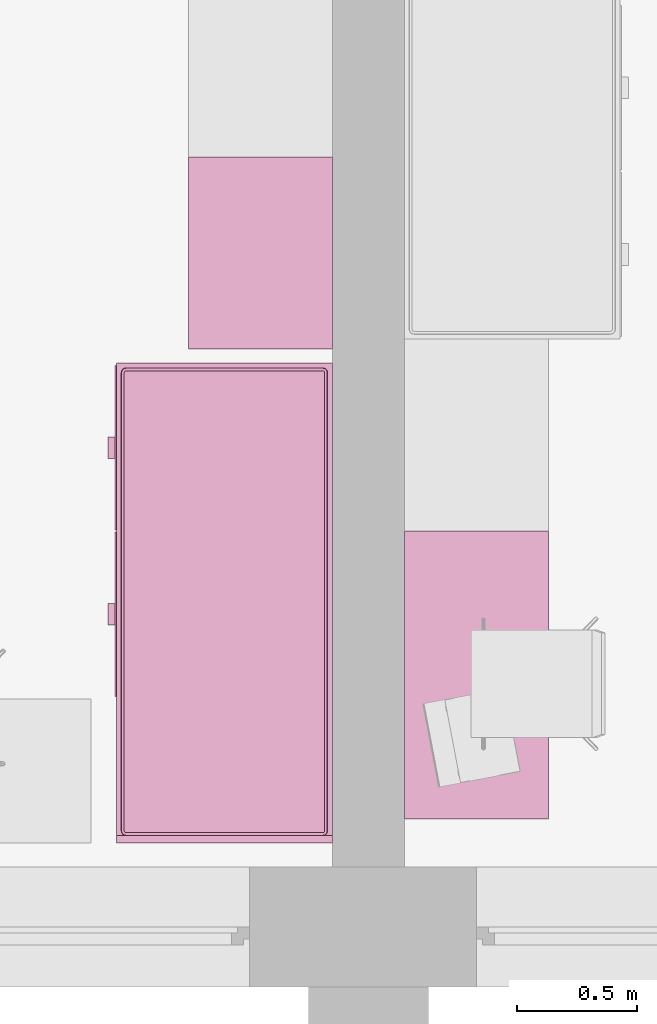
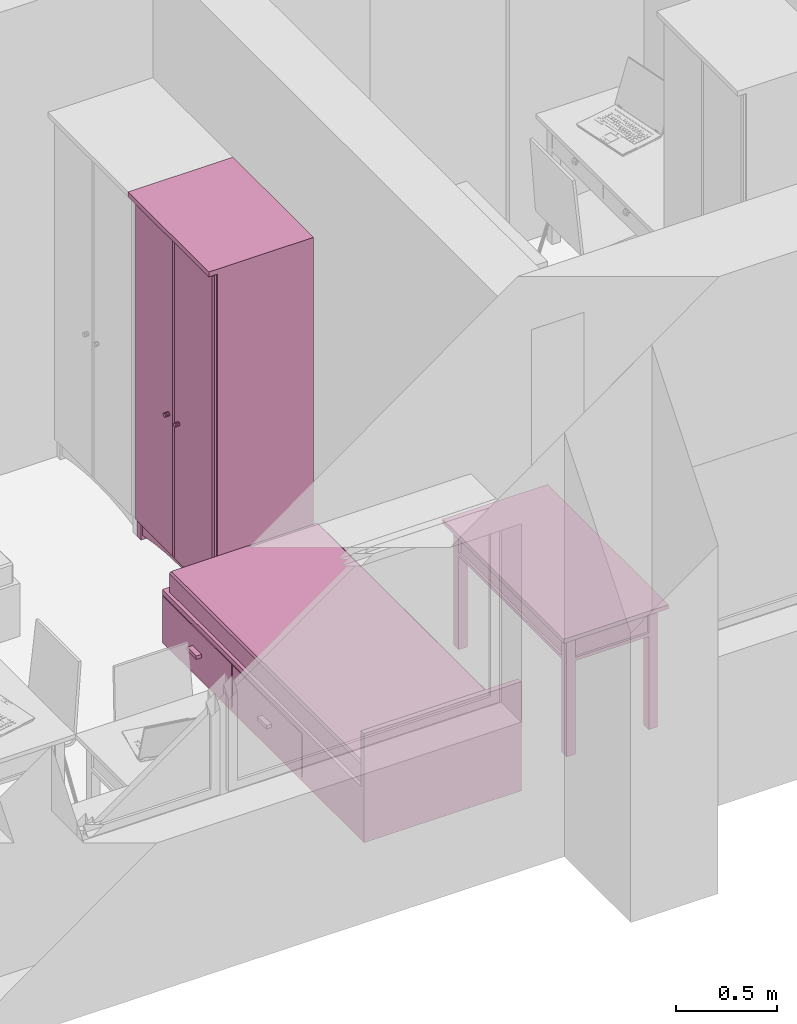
# One storey, part 56 of 165: 3 furnishings.
"""IFC2X3 building model written with IfcOpenShell, lengths in millimetres."""

from ifc_helpers import new_model, entity, si_unit, converted_unit, money_unit, direction, frame, origin_with_axes, place, context, subcontext, project, spatial, faceted_brep, source, transform, mapped, material, material_list, type_object, element, save


model = new_model("IFC2X3")

# Units and contexts
model_context = context("Model", 3, precision=1e-05, world=origin_with_axes(), true_north=direction((0.0, 1.0)))
body_context = subcontext(model_context, "Body", "Model", "MODEL_VIEW")
ifc_project = project(units=[si_unit("LENGTHUNIT", "METRE", prefix="MILLI"), si_unit("AREAUNIT", "SQUARE_METRE"), si_unit("VOLUMEUNIT", "CUBIC_METRE"), converted_unit("PLANEANGLEUNIT", "DEGREE", entity("IfcPlaneAngleMeasure", 0.0174532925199), si_unit("PLANEANGLEUNIT", "RADIAN"), dimensions=[0, 0, 0, 0, 0, 0, 0]), si_unit("SOLIDANGLEUNIT", "STERADIAN"), money_unit("USD"), converted_unit("TIMEUNIT", "Year", entity("IfcTimeMeasure", 31556926.0), si_unit("TIMEUNIT", "SECOND"), dimensions=[0, 0, 0, 0, 0, 0, 0]), si_unit("MASSUNIT", "GRAM"), si_unit("THERMODYNAMICTEMPERATUREUNIT", "DEGREE_CELSIUS"), si_unit("LUMINOUSINTENSITYUNIT", "LUMEN")], contexts=[model_context])

# Site, building, storey
site_placement = place(None, origin_with_axes())
site = spatial("IfcSite", under=ifc_project, at=site_placement, Name="Site", CompositionType="ELEMENT")
building_placement = place(site_placement, origin_with_axes())
building = spatial("IfcBuilding", under=site, at=building_placement, Name="Building", CompositionType="ELEMENT")
storey_placement = place(building_placement, frame((0.0, 0.0, 6300.0), z_axis=(0.0, 0.0, 1.0), x_axis=(1.0, 0.0, 0.0)))
storey = spatial("IfcBuildingStorey", under=building, at=storey_placement, Name="4KORRUS", CompositionType="ELEMENT", Elevation=6300.0)

# Furnishings
ifc_material = material(Name="Background")
ifc_material_list = material_list([ifc_material])
furnishing_element_type_1 = type_object("IfcFurnishingElementType", Name="Bed 19")
shared_shape_1 = source(origin_with_axes(), body_context, "Body", "Brep", [
    faceted_brep([(900.0, 1970.0, 0.0), (0.0, 1970.0, 0.0), (0.0, 2000.0, 0.0), (900.0, 2000.0, 0.0), (900.0, 1970.0, 660.0), (0.0, 1970.0, 660.0), (0.0, 2000.0, 660.0), (900.0, 2000.0, 660.0)], [[[0, 1, 2, 3]], [[1, 0, 4, 5]], [[2, 1, 5, 6]], [[3, 2, 6, 7]], [[0, 3, 7, 4]], [[5, 4, 7, 6]]]),
    faceted_brep([(900.0, 0.0, 0.0), (0.0, 0.0, 0.0), (0.0, 1970.0, 0.0), (900.0, 1970.0, 0.0), (900.0, 0.0, 320.0), (0.0, 0.0, 320.0), (0.0, 1970.0, 320.0), (900.0, 1970.0, 320.0)], [[[0, 1, 2, 3]], [[1, 0, 4, 5]], [[2, 1, 5, 6]], [[3, 2, 6, 7]], [[0, 3, 7, 4]], [[5, 4, 7, 6]]]),
    faceted_brep([(905.0, 10.0, 30.0), (900.0, 10.0, 30.0), (900.0, 695.0, 30.0), (905.0, 695.0, 30.0), (905.0, 10.0, 290.0), (900.0, 10.0, 290.0), (900.0, 695.0, 290.0), (905.0, 695.0, 290.0)], [[[0, 1, 2, 3]], [[1, 0, 4, 5]], [[2, 1, 5, 6]], [[3, 2, 6, 7]], [[0, 3, 7, 4]], [[5, 4, 7, 6]]]),
    faceted_brep([(935.0, 307.5, 150.0), (905.0, 307.5, 150.0), (905.0, 397.5, 150.0), (935.0, 397.5, 150.0), (935.0, 307.5, 170.0), (905.0, 307.5, 170.0), (905.0, 397.5, 170.0), (935.0, 397.5, 170.0)], [[[0, 1, 2, 3]], [[1, 0, 4, 5]], [[2, 1, 5, 6]], [[3, 2, 6, 7]], [[0, 3, 7, 4]], [[5, 4, 7, 6]]]),
    faceted_brep([(905.0, 705.0, 30.0), (900.0, 705.0, 30.0), (900.0, 1390.0, 30.0), (905.0, 1390.0, 30.0), (905.0, 705.0, 290.0), (900.0, 705.0, 290.0), (900.0, 1390.0, 290.0), (905.0, 1390.0, 290.0)], [[[0, 1, 2, 3]], [[1, 0, 4, 5]], [[2, 1, 5, 6]], [[3, 2, 6, 7]], [[0, 3, 7, 4]], [[5, 4, 7, 6]]]),
    faceted_brep([(935.0, 1002.5, 150.0), (905.0, 1002.5, 150.0), (905.0, 1092.5, 150.0), (935.0, 1092.5, 150.0), (935.0, 1002.5, 170.0), (905.0, 1002.5, 170.0), (905.0, 1092.5, 170.0), (935.0, 1092.5, 170.0)], [[[0, 1, 2, 3]], [[1, 0, 4, 5]], [[2, 1, 5, 6]], [[3, 2, 6, 7]], [[0, 3, 7, 4]], [[5, 4, 7, 6]]]),
    faceted_brep([(20.0, 40.0, 350.0), (20.0, 1950.0, 350.0), (21.522, 1957.654, 350.0), (25.858, 1964.142, 350.0), (32.346, 1968.478, 350.0), (40.0, 1970.0, 350.0), (860.0, 1970.0, 350.0), (867.654, 1968.478, 350.0), (874.142, 1964.142, 350.0), (878.478, 1957.654, 350.0), (880.0, 1950.0, 350.0), (880.0, 40.0, 350.0), (878.478, 32.346, 350.0), (874.142, 25.858, 350.0), (867.654, 21.522, 350.0), (860.0, 20.0, 350.0), (40.0, 20.0, 350.0), (32.346, 21.522, 350.0), (25.858, 25.858, 350.0), (21.522, 32.346, 350.0), (20.0, 40.0, 420.0), (20.0, 1950.0, 420.0), (21.522, 1957.654, 420.0), (25.858, 1964.142, 420.0), (32.346, 1968.478, 420.0), (40.0, 1970.0, 420.0), (860.0, 1970.0, 420.0), (867.654, 1968.478, 420.0), (874.142, 1964.142, 420.0), (878.478, 1957.654, 420.0), (880.0, 1950.0, 420.0), (880.0, 40.0, 420.0), (878.478, 32.346, 420.0), (874.142, 25.858, 420.0), (867.654, 21.522, 420.0), (860.0, 20.0, 420.0), (40.0, 20.0, 420.0), (32.346, 21.522, 420.0), (25.858, 25.858, 420.0), (21.522, 32.346, 420.0), (21.522, 40.15, 427.654), (21.522, 1949.85, 427.654), (22.956, 1957.06, 427.654), (26.955, 1963.045, 427.654), (32.94, 1967.044, 427.654), (40.15, 1968.478, 427.654), (859.85, 1968.478, 427.654), (867.06, 1967.044, 427.654), (873.045, 1963.045, 427.654), (877.044, 1957.06, 427.654), (878.478, 1949.85, 427.654), (878.478, 40.15, 427.654), (877.044, 32.94, 427.654), (873.045, 26.955, 427.654), (867.06, 22.956, 427.654), (859.85, 21.522, 427.654), (40.15, 21.522, 427.654), (32.94, 22.956, 427.654), (26.955, 26.955, 427.654), (22.956, 32.94, 427.654), (32.346, 41.216, 438.478), (32.346, 1948.784, 438.478), (33.152, 1952.836, 438.478), (34.759, 1955.241, 438.478), (37.164, 1956.848, 438.478), (41.216, 1957.654, 438.478), (858.784, 1957.654, 438.478), (862.836, 1956.848, 438.478), (865.241, 1955.241, 438.478), (866.848, 1952.836, 438.478), (867.654, 1948.784, 438.478), (867.654, 41.216, 438.478), (866.848, 37.164, 438.478), (865.241, 34.759, 438.478), (862.836, 33.152, 438.478), (858.784, 32.346, 438.478), (41.216, 32.346, 438.478), (37.164, 33.152, 438.478), (34.759, 34.759, 438.478), (33.152, 37.164, 438.478), (40.0, 41.97, 440.0), (40.0, 1948.03, 440.0), (40.327, 1949.673, 440.0), (40.0, 1950.0, 439.924), (41.97, 1950.0, 440.0), (858.03, 1950.0, 440.0), (859.673, 1949.673, 440.0), (860.0, 1950.0, 439.924), (860.0, 1948.03, 440.0), (860.0, 41.97, 440.0), (859.673, 40.327, 440.0), (860.0, 40.0, 439.924), (858.03, 40.0, 440.0), (41.97, 40.0, 440.0), (40.327, 40.327, 440.0), (40.0, 40.0, 439.924)], [[[0, 1, 2, 3, 4, 5, 6, 7, 8, 9, 10, 11, 12, 13, 14, 15, 16, 17, 18, 19]], [[1, 0, 20, 21]], [[2, 1, 21, 22]], [[3, 2, 22, 23]], [[4, 3, 23, 24]], [[5, 4, 24, 25]], [[6, 5, 25, 26]], [[7, 6, 26, 27]], [[8, 7, 27, 28]], [[9, 8, 28, 29]], [[10, 9, 29, 30]], [[11, 10, 30, 31]], [[12, 11, 31, 32]], [[13, 12, 32, 33]], [[14, 13, 33, 34]], [[15, 14, 34, 35]], [[16, 15, 35, 36]], [[17, 16, 36, 37]], [[18, 17, 37, 38]], [[19, 18, 38, 39]], [[0, 19, 39, 20]], [[21, 20, 40, 41]], [[22, 21, 41, 42]], [[23, 22, 42, 43]], [[24, 23, 43, 44]], [[25, 24, 44, 45]], [[26, 25, 45, 46]], [[27, 26, 46, 47]], [[28, 27, 47, 48]], [[29, 28, 48, 49]], [[30, 29, 49, 50]], [[31, 30, 50, 51]], [[32, 31, 51, 52]], [[33, 32, 52, 53]], [[34, 33, 53, 54]], [[35, 34, 54, 55]], [[36, 35, 55, 56]], [[37, 36, 56, 57]], [[38, 37, 57, 58]], [[39, 38, 58, 59]], [[20, 39, 59, 40]], [[41, 40, 60, 61]], [[42, 41, 61, 62]], [[43, 42, 62, 63]], [[44, 43, 63, 64]], [[45, 44, 64, 65]], [[46, 45, 65, 66]], [[47, 46, 66, 67]], [[48, 47, 67, 68]], [[49, 48, 68, 69]], [[50, 49, 69, 70]], [[51, 50, 70, 71]], [[52, 51, 71, 72]], [[53, 52, 72, 73]], [[54, 53, 73, 74]], [[55, 54, 74, 75]], [[56, 55, 75, 76]], [[57, 56, 76, 77]], [[58, 57, 77, 78]], [[59, 58, 78, 79]], [[40, 59, 79, 60]], [[61, 60, 80, 81]], [[62, 61, 81, 82, 83]], [[63, 62, 83]], [[64, 63, 83]], [[65, 64, 83, 82, 84]], [[66, 65, 84, 85]], [[67, 66, 85, 86, 87]], [[68, 67, 87]], [[69, 68, 87]], [[70, 69, 87, 86, 88]], [[71, 70, 88, 89]], [[72, 71, 89, 90, 91]], [[73, 72, 91]], [[74, 73, 91]], [[75, 74, 91, 90, 92]], [[76, 75, 92, 93]], [[77, 76, 93, 94, 95]], [[78, 77, 95]], [[79, 78, 95]], [[60, 79, 95, 94, 80]], [[81, 80, 94, 93, 92, 90, 89, 88, 86, 85, 84, 82]]]),
    faceted_brep([(20.0, 40.0, 350.0), (21.522, 32.346, 350.0), (25.858, 25.858, 350.0), (32.346, 21.522, 350.0), (40.0, 20.0, 350.0), (860.0, 20.0, 350.0), (867.654, 21.522, 350.0), (874.142, 25.858, 350.0), (878.478, 32.346, 350.0), (880.0, 40.0, 350.0), (880.0, 1950.0, 350.0), (878.478, 1957.654, 350.0), (874.142, 1964.142, 350.0), (867.654, 1968.478, 350.0), (860.0, 1970.0, 350.0), (40.0, 1970.0, 350.0), (32.346, 1968.478, 350.0), (25.858, 1964.142, 350.0), (21.522, 1957.654, 350.0), (20.0, 1950.0, 350.0), (20.0, 40.0, 320.0), (21.522, 32.346, 320.0), (25.858, 25.858, 320.0), (32.346, 21.522, 320.0), (40.0, 20.0, 320.0), (860.0, 20.0, 320.0), (867.654, 21.522, 320.0), (874.142, 25.858, 320.0), (878.478, 32.346, 320.0), (880.0, 40.0, 320.0), (880.0, 1950.0, 320.0), (878.478, 1957.654, 320.0), (874.142, 1964.142, 320.0), (867.654, 1968.478, 320.0), (860.0, 1970.0, 320.0), (40.0, 1970.0, 320.0), (32.346, 1968.478, 320.0), (25.858, 1964.142, 320.0), (21.522, 1957.654, 320.0), (20.0, 1950.0, 320.0)], [[[0, 1, 2, 3, 4, 5, 6, 7, 8, 9, 10, 11, 12, 13, 14, 15, 16, 17, 18, 19]], [[0, 20, 21, 1]], [[1, 21, 22, 2]], [[2, 22, 23, 3]], [[3, 23, 24, 4]], [[4, 24, 25, 5]], [[5, 25, 26, 6]], [[6, 26, 27, 7]], [[7, 27, 28, 8]], [[8, 28, 29, 9]], [[9, 29, 30, 10]], [[10, 30, 31, 11]], [[11, 31, 32, 12]], [[12, 32, 33, 13]], [[13, 33, 34, 14]], [[14, 34, 35, 15]], [[15, 35, 36, 16]], [[16, 36, 37, 17]], [[17, 37, 38, 18]], [[18, 38, 39, 19]], [[19, 39, 20, 0]], [[20, 39, 38, 37, 36, 35, 34, 33, 32, 31, 30, 29, 28, 27, 26, 25, 24, 23, 22, 21]]]),
])
furnishing_1_placement = place(storey_placement, frame((-48290.2967033, -17539.2398994, 0.0), z_axis=(0.0, 0.0, 1.0), x_axis=(-1.0, 0.0, 0.0)))
element("IfcFurnishingElement", 1, at=furnishing_1_placement, inside=storey, type_object=furnishing_element_type_1, material=ifc_material_list, Name="FU - 013", context=body_context, shape_type="MappedRepresentation", body=[
    mapped(shared_shape_1, transform((0.0, 0.0, 0.0))),
])
furnishing_element_type_2 = type_object("IfcFurnishingElementType", Name="Cupboard 19")
shared_shape_2 = source(origin_with_axes(), body_context, "Body", "Brep", [
    faceted_brep([(780.0, 600.0, 120.0), (780.0, 600.0, 2050.0), (780.0, 580.0, 2050.0), (780.0, 580.0, 120.0), (20.0, 600.0, 120.0), (20.0, 600.0, 2050.0), (20.0, 580.0, 2050.0), (20.0, 580.0, 120.0)], [[[0, 1, 2, 3]], [[4, 5, 1, 0]], [[1, 5, 6, 2]], [[3, 2, 6, 7]], [[0, 3, 7, 4]], [[7, 6, 5, 4]]]),
    faceted_brep([(0.0, 50.0, 100.0), (0.0, 600.0, 100.0), (20.0, 600.0, 100.0), (20.0, 50.0, 100.0), (0.0, 50.0, 2070.0), (0.0, 600.0, 2070.0), (20.0, 600.0, 2070.0), (20.0, 50.0, 2070.0)], [[[0, 1, 2, 3]], [[0, 4, 5, 1]], [[1, 5, 6, 2]], [[2, 6, 7, 3]], [[3, 7, 4, 0]], [[7, 6, 5, 4]]]),
    faceted_brep([(780.0, 50.0, 100.0), (780.0, 600.0, 100.0), (800.0, 600.0, 100.0), (800.0, 50.0, 100.0), (780.0, 50.0, 2070.0), (780.0, 600.0, 2070.0), (800.0, 600.0, 2070.0), (800.0, 50.0, 2070.0)], [[[0, 1, 2, 3]], [[0, 4, 5, 1]], [[1, 5, 6, 2]], [[2, 6, 7, 3]], [[3, 7, 4, 0]], [[7, 6, 5, 4]]]),
    faceted_brep([(20.0, 50.0, 100.0), (20.0, 600.0, 100.0), (780.0, 600.0, 100.0), (780.0, 50.0, 100.0), (20.0, 50.0, 120.0), (20.0, 600.0, 120.0), (780.0, 600.0, 120.0), (780.0, 50.0, 120.0)], [[[0, 1, 2, 3]], [[0, 4, 5, 1]], [[1, 5, 6, 2]], [[2, 6, 7, 3]], [[3, 7, 4, 0]], [[7, 6, 5, 4]]]),
    faceted_brep([(20.0, 50.0, 2050.0), (20.0, 600.0, 2050.0), (780.0, 600.0, 2050.0), (780.0, 50.0, 2050.0), (20.0, 50.0, 2070.0), (20.0, 600.0, 2070.0), (780.0, 600.0, 2070.0), (780.0, 50.0, 2070.0)], [[[0, 1, 2, 3]], [[0, 4, 5, 1]], [[1, 5, 6, 2]], [[2, 6, 7, 3]], [[3, 7, 4, 0]], [[7, 6, 5, 4]]]),
    faceted_brep([(0.0, 600.0, 2070.0), (0.0, 0.0, 2070.0), (0.0, 0.0, 2100.0), (0.0, 600.0, 2100.0), (800.0, 600.0, 2070.0), (800.0, 0.0, 2070.0), (800.0, 0.0, 2100.0), (800.0, 600.0, 2100.0)], [[[0, 1, 2, 3]], [[0, 4, 5, 1]], [[1, 5, 6, 2]], [[3, 2, 6, 7]], [[4, 0, 3, 7]], [[5, 4, 7, 6]]]),
    faceted_brep([(760.0, 590.0, 25.0), (760.0, 570.0, 25.0), (640.962, 570.0, 45.8), (640.962, 590.0, 45.8), (760.0, 590.0, 100.0), (760.0, 570.0, 100.0), (40.0, 570.0, 100.0), (40.0, 570.0, 25.0), (159.038, 570.0, 45.8), (279.23, 570.0, 58.32), (400.0, 570.0, 62.5), (520.77, 570.0, 58.32), (520.77, 590.0, 58.32), (400.0, 590.0, 62.5), (279.23, 590.0, 58.32), (159.038, 590.0, 45.8), (40.0, 590.0, 25.0), (40.0, 590.0, 100.0)], [[[0, 1, 2, 3]], [[4, 5, 1, 0]], [[1, 5, 6, 7, 8, 9, 10, 11, 2]], [[3, 2, 11, 12]], [[0, 3, 12, 13, 14, 15, 16, 17, 4]], [[17, 6, 5, 4]], [[16, 7, 6, 17]], [[15, 8, 7, 16]], [[14, 9, 8, 15]], [[13, 10, 9, 14]], [[12, 11, 10, 13]]]),
    faceted_brep([(760.0, 80.0, 25.0), (760.0, 60.0, 25.0), (640.962, 60.0, 45.8), (640.962, 80.0, 45.8), (760.0, 80.0, 100.0), (760.0, 60.0, 100.0), (40.0, 60.0, 100.0), (40.0, 60.0, 25.0), (159.038, 60.0, 45.8), (279.23, 60.0, 58.32), (400.0, 60.0, 62.5), (520.77, 60.0, 58.32), (520.77, 80.0, 58.32), (400.0, 80.0, 62.5), (279.23, 80.0, 58.32), (159.038, 80.0, 45.8), (40.0, 80.0, 25.0), (40.0, 80.0, 100.0)], [[[0, 1, 2, 3]], [[4, 5, 1, 0]], [[1, 5, 6, 7, 8, 9, 10, 11, 2]], [[3, 2, 11, 12]], [[0, 3, 12, 13, 14, 15, 16, 17, 4]], [[17, 6, 5, 4]], [[16, 7, 6, 17]], [[15, 8, 7, 16]], [[14, 9, 8, 15]], [[13, 10, 9, 14]], [[12, 11, 10, 13]]]),
    faceted_brep([(790.0, 90.0, 25.0), (770.0, 90.0, 25.0), (770.0, 141.266, 38.072), (790.0, 141.266, 38.072), (790.0, 90.0, 100.0), (770.0, 90.0, 100.0), (770.0, 560.0, 100.0), (770.0, 560.0, 25.0), (770.0, 508.734, 38.072), (770.0, 456.752, 47.92), (770.0, 404.257, 54.508), (770.0, 351.453, 57.808), (770.0, 298.547, 57.808), (770.0, 245.743, 54.508), (770.0, 193.248, 47.92), (790.0, 193.248, 47.92), (790.0, 245.743, 54.508), (790.0, 298.547, 57.808), (790.0, 351.453, 57.808), (790.0, 404.257, 54.508), (790.0, 456.752, 47.92), (790.0, 508.734, 38.072), (790.0, 560.0, 25.0), (790.0, 560.0, 100.0)], [[[0, 1, 2, 3]], [[4, 5, 1, 0]], [[1, 5, 6, 7, 8, 9, 10, 11, 12, 13, 14, 2]], [[3, 2, 14, 15]], [[0, 3, 15, 16, 17, 18, 19, 20, 21, 22, 23, 4]], [[23, 6, 5, 4]], [[22, 7, 6, 23]], [[21, 8, 7, 22]], [[20, 9, 8, 21]], [[19, 10, 9, 20]], [[18, 11, 10, 19]], [[17, 12, 11, 18]], [[16, 13, 12, 17]], [[15, 14, 13, 16]]]),
    faceted_brep([(30.0, 90.0, 25.0), (10.0, 90.0, 25.0), (10.0, 141.266, 38.072), (30.0, 141.266, 38.072), (30.0, 90.0, 100.0), (10.0, 90.0, 100.0), (10.0, 560.0, 100.0), (10.0, 560.0, 25.0), (10.0, 508.734, 38.072), (10.0, 456.752, 47.92), (10.0, 404.257, 54.508), (10.0, 351.453, 57.808), (10.0, 298.547, 57.808), (10.0, 245.743, 54.508), (10.0, 193.248, 47.92), (30.0, 193.248, 47.92), (30.0, 245.743, 54.508), (30.0, 298.547, 57.808), (30.0, 351.453, 57.808), (30.0, 404.257, 54.508), (30.0, 456.752, 47.92), (30.0, 508.734, 38.072), (30.0, 560.0, 25.0), (30.0, 560.0, 100.0)], [[[0, 1, 2, 3]], [[4, 5, 1, 0]], [[1, 5, 6, 7, 8, 9, 10, 11, 12, 13, 14, 2]], [[3, 2, 14, 15]], [[0, 3, 15, 16, 17, 18, 19, 20, 21, 22, 23, 4]], [[23, 6, 5, 4]], [[22, 7, 6, 23]], [[21, 8, 7, 22]], [[20, 9, 8, 21]], [[19, 10, 9, 20]], [[18, 11, 10, 19]], [[17, 12, 11, 18]], [[16, 13, 12, 17]], [[15, 14, 13, 16]]]),
    faceted_brep([(760.0, 560.0, 0.0), (760.0, 560.0, 100.0), (760.0, 600.0, 100.0), (760.0, 600.0, 0.0), (800.0, 560.0, 0.0), (800.0, 560.0, 100.0), (800.0, 600.0, 100.0), (800.0, 600.0, 0.0)], [[[0, 1, 2, 3]], [[4, 5, 1, 0]], [[1, 5, 6, 2]], [[3, 2, 6, 7]], [[0, 3, 7, 4]], [[7, 6, 5, 4]]]),
    faceted_brep([(0.0, 560.0, 0.0), (0.0, 560.0, 100.0), (0.0, 600.0, 100.0), (0.0, 600.0, 0.0), (40.0, 560.0, 0.0), (40.0, 560.0, 100.0), (40.0, 600.0, 100.0), (40.0, 600.0, 0.0)], [[[0, 1, 2, 3]], [[4, 5, 1, 0]], [[1, 5, 6, 2]], [[3, 2, 6, 7]], [[0, 3, 7, 4]], [[7, 6, 5, 4]]]),
    faceted_brep([(760.0, 50.0, 0.0), (760.0, 50.0, 100.0), (760.0, 90.0, 100.0), (760.0, 90.0, 0.0), (800.0, 50.0, 0.0), (800.0, 50.0, 100.0), (800.0, 90.0, 100.0), (800.0, 90.0, 0.0)], [[[0, 1, 2, 3]], [[4, 5, 1, 0]], [[1, 5, 6, 2]], [[3, 2, 6, 7]], [[0, 3, 7, 4]], [[7, 6, 5, 4]]]),
    faceted_brep([(0.0, 50.0, 0.0), (0.0, 50.0, 100.0), (0.0, 90.0, 100.0), (0.0, 90.0, 0.0), (40.0, 50.0, 0.0), (40.0, 50.0, 100.0), (40.0, 90.0, 100.0), (40.0, 90.0, 0.0)], [[[0, 1, 2, 3]], [[4, 5, 1, 0]], [[1, 5, 6, 2]], [[3, 2, 6, 7]], [[0, 3, 7, 4]], [[7, 6, 5, 4]]]),
    faceted_brep([(780.0, 580.0, 587.5), (780.0, 580.0, 607.5), (780.0, 50.0, 607.5), (780.0, 50.0, 587.5), (20.0, 580.0, 587.5), (20.0, 580.0, 607.5), (20.0, 50.0, 607.5), (20.0, 50.0, 587.5)], [[[0, 1, 2, 3]], [[4, 5, 1, 0]], [[1, 5, 6, 2]], [[3, 2, 6, 7]], [[0, 3, 7, 4]], [[7, 6, 5, 4]]]),
    faceted_brep([(780.0, 580.0, 1075.0), (780.0, 580.0, 1095.0), (780.0, 50.0, 1095.0), (780.0, 50.0, 1075.0), (20.0, 580.0, 1075.0), (20.0, 580.0, 1095.0), (20.0, 50.0, 1095.0), (20.0, 50.0, 1075.0)], [[[0, 1, 2, 3]], [[4, 5, 1, 0]], [[1, 5, 6, 2]], [[3, 2, 6, 7]], [[0, 3, 7, 4]], [[7, 6, 5, 4]]]),
    faceted_brep([(780.0, 580.0, 1562.5), (780.0, 580.0, 1582.5), (780.0, 50.0, 1582.5), (780.0, 50.0, 1562.5), (20.0, 580.0, 1562.5), (20.0, 580.0, 1582.5), (20.0, 50.0, 1582.5), (20.0, 50.0, 1562.5)], [[[0, 1, 2, 3]], [[4, 5, 1, 0]], [[1, 5, 6, 2]], [[3, 2, 6, 7]], [[0, 3, 7, 4]], [[7, 6, 5, 4]]]),
    faceted_brep([(789.5, 50.0, 110.5), (400.5, 50.0, 110.5), (400.5, 50.0, 2059.5), (789.5, 50.0, 2059.5), (789.5, 40.0, 110.5), (400.5, 40.0, 110.5), (400.5, 40.0, 2059.5), (789.5, 40.0, 2059.5), (779.5, 30.0, 120.5), (410.5, 30.0, 120.5), (410.5, 30.0, 2049.5), (779.5, 30.0, 2049.5)], [[[0, 1, 2, 3]], [[0, 4, 5, 1]], [[1, 5, 6, 2]], [[2, 6, 7, 3]], [[3, 7, 4, 0]], [[4, 8, 9, 5]], [[5, 9, 10, 6]], [[6, 10, 11, 7]], [[7, 11, 8, 4]], [[10, 9, 8, 11]]]),
    faceted_brep([(399.5, 50.0, 110.5), (10.5, 50.0, 110.5), (10.5, 50.0, 2059.5), (399.5, 50.0, 2059.5), (399.5, 40.0, 110.5), (10.5, 40.0, 110.5), (10.5, 40.0, 2059.5), (399.5, 40.0, 2059.5), (389.5, 30.0, 120.5), (20.5, 30.0, 120.5), (20.5, 30.0, 2049.5), (389.5, 30.0, 2049.5)], [[[0, 1, 2, 3]], [[0, 4, 5, 1]], [[1, 5, 6, 2]], [[2, 6, 7, 3]], [[3, 7, 4, 0]], [[4, 8, 9, 5]], [[5, 9, 10, 6]], [[6, 10, 11, 7]], [[7, 11, 8, 4]], [[10, 9, 8, 11]]]),
    faceted_brep([(339.608, 30.0, 954.0), (338.0, 30.0, 960.0), (339.608, 30.0, 966.0), (344.0, 30.0, 970.392), (350.0, 30.0, 972.0), (356.0, 30.0, 970.392), (360.392, 30.0, 966.0), (362.0, 30.0, 960.0), (360.392, 30.0, 954.0), (356.0, 30.0, 949.608), (350.0, 30.0, 948.0), (344.0, 30.0, 949.608), (339.608, 5.0, 954.0), (338.0, 5.0, 960.0), (339.608, 5.0, 966.0), (344.0, 5.0, 970.392), (350.0, 5.0, 972.0), (356.0, 5.0, 970.392), (360.392, 5.0, 966.0), (362.0, 5.0, 960.0), (360.392, 5.0, 954.0), (356.0, 5.0, 949.608), (350.0, 5.0, 948.0), (344.0, 5.0, 949.608)], [[[0, 1, 2, 3, 4, 5, 6, 7, 8, 9, 10, 11]], [[0, 12, 13, 1]], [[1, 13, 14, 2]], [[2, 14, 15, 3]], [[3, 15, 16, 4]], [[4, 16, 17, 5]], [[5, 17, 18, 6]], [[6, 18, 19, 7]], [[7, 19, 20, 8]], [[8, 20, 21, 9]], [[9, 21, 22, 10]], [[10, 22, 23, 11]], [[11, 23, 12, 0]], [[12, 23, 22, 21, 20, 19, 18, 17, 16, 15, 14, 13]]]),
    faceted_brep([(460.392, 30.0, 954.0), (456.0, 30.0, 949.608), (450.0, 30.0, 948.0), (444.0, 30.0, 949.608), (439.608, 30.0, 954.0), (438.0, 30.0, 960.0), (439.608, 30.0, 966.0), (444.0, 30.0, 970.392), (450.0, 30.0, 972.0), (456.0, 30.0, 970.392), (460.392, 30.0, 966.0), (462.0, 30.0, 960.0), (460.392, 5.0, 954.0), (456.0, 5.0, 949.608), (450.0, 5.0, 948.0), (444.0, 5.0, 949.608), (439.608, 5.0, 954.0), (438.0, 5.0, 960.0), (439.608, 5.0, 966.0), (444.0, 5.0, 970.392), (450.0, 5.0, 972.0), (456.0, 5.0, 970.392), (460.392, 5.0, 966.0), (462.0, 5.0, 960.0)], [[[0, 1, 2, 3, 4, 5, 6, 7, 8, 9, 10, 11]], [[1, 0, 12, 13]], [[2, 1, 13, 14]], [[3, 2, 14, 15]], [[4, 3, 15, 16]], [[5, 4, 16, 17]], [[6, 5, 17, 18]], [[7, 6, 18, 19]], [[8, 7, 19, 20]], [[9, 8, 20, 21]], [[10, 9, 21, 22]], [[11, 10, 22, 23]], [[0, 11, 23, 12]], [[12, 23, 22, 21, 20, 19, 18, 17, 16, 15, 14, 13]]]),
])
furnishing_2_placement = place(storey_placement, frame((-48890.2967033, -16680.9451777, 0.0), z_axis=(0.0, 0.0, 1.0), x_axis=(0.0, -1.0, 0.0)))
element("IfcFurnishingElement", 2, at=furnishing_2_placement, inside=storey, type_object=furnishing_element_type_2, material=ifc_material_list, Name="FU - 014", context=body_context, shape_type="MappedRepresentation", body=[
    mapped(shared_shape_2, transform((0.0, 0.0, 0.0))),
])
furnishing_element_type_3 = type_object("IfcFurnishingElementType", Name="Rectangular Table 01 19")
shared_shape_3 = source(origin_with_axes(), body_context, "Body", "Brep", [
    faceted_brep([(90.0, 40.0, 0.0), (40.0, 40.0, 0.0), (40.0, 90.0, 0.0), (90.0, 90.0, 0.0), (90.0, 40.0, 725.0), (40.0, 40.0, 725.0), (40.0, 90.0, 725.0), (90.0, 90.0, 725.0)], [[[0, 1, 2, 3]], [[1, 0, 4, 5]], [[2, 1, 5, 6]], [[3, 2, 6, 7]], [[0, 3, 7, 4]], [[5, 4, 7, 6]]]),
    faceted_brep([(1160.0, 40.0, 0.0), (1110.0, 40.0, 0.0), (1110.0, 90.0, 0.0), (1160.0, 90.0, 0.0), (1160.0, 40.0, 725.0), (1110.0, 40.0, 725.0), (1110.0, 90.0, 725.0), (1160.0, 90.0, 725.0)], [[[0, 1, 2, 3]], [[1, 0, 4, 5]], [[2, 1, 5, 6]], [[3, 2, 6, 7]], [[0, 3, 7, 4]], [[5, 4, 7, 6]]]),
    faceted_brep([(90.0, 510.0, 0.0), (40.0, 510.0, 0.0), (40.0, 560.0, 0.0), (90.0, 560.0, 0.0), (90.0, 510.0, 725.0), (40.0, 510.0, 725.0), (40.0, 560.0, 725.0), (90.0, 560.0, 725.0)], [[[0, 1, 2, 3]], [[1, 0, 4, 5]], [[2, 1, 5, 6]], [[3, 2, 6, 7]], [[0, 3, 7, 4]], [[5, 4, 7, 6]]]),
    faceted_brep([(1160.0, 510.0, 0.0), (1110.0, 510.0, 0.0), (1110.0, 560.0, 0.0), (1160.0, 560.0, 0.0), (1160.0, 510.0, 725.0), (1110.0, 510.0, 725.0), (1110.0, 560.0, 725.0), (1160.0, 560.0, 725.0)], [[[0, 1, 2, 3]], [[1, 0, 4, 5]], [[2, 1, 5, 6]], [[3, 2, 6, 7]], [[0, 3, 7, 4]], [[5, 4, 7, 6]]]),
    faceted_brep([(1160.0, 40.0, 565.0), (40.0, 40.0, 565.0), (40.0, 560.0, 565.0), (1160.0, 560.0, 565.0), (1160.0, 40.0, 585.0), (40.0, 40.0, 585.0), (40.0, 560.0, 585.0), (1160.0, 560.0, 585.0)], [[[0, 1, 2, 3]], [[1, 0, 4, 5]], [[2, 1, 5, 6]], [[3, 2, 6, 7]], [[0, 3, 7, 4]], [[5, 4, 7, 6]]]),
    faceted_brep([(1110.0, 52.5, 585.0), (90.0, 52.5, 585.0), (90.0, 77.5, 585.0), (1110.0, 77.5, 585.0), (1110.0, 52.5, 745.0), (90.0, 52.5, 745.0), (90.0, 77.5, 745.0), (1110.0, 77.5, 745.0)], [[[0, 1, 2, 3]], [[1, 0, 4, 5]], [[2, 1, 5, 6]], [[3, 2, 6, 7]], [[0, 3, 7, 4]], [[5, 4, 7, 6]]]),
    faceted_brep([(77.5, 90.0, 585.0), (52.5, 90.0, 585.0), (52.5, 510.0, 585.0), (77.5, 510.0, 585.0), (77.5, 90.0, 745.0), (52.5, 90.0, 745.0), (52.5, 510.0, 745.0), (77.5, 510.0, 745.0)], [[[0, 1, 2, 3]], [[1, 0, 4, 5]], [[2, 1, 5, 6]], [[3, 2, 6, 7]], [[0, 3, 7, 4]], [[5, 4, 7, 6]]]),
    faceted_brep([(90.0, 547.5, 585.0), (1110.0, 547.5, 585.0), (1110.0, 522.5, 585.0), (90.0, 522.5, 585.0), (90.0, 547.5, 745.0), (1110.0, 547.5, 745.0), (1110.0, 522.5, 745.0), (90.0, 522.5, 745.0)], [[[0, 1, 2, 3]], [[1, 0, 4, 5]], [[2, 1, 5, 6]], [[3, 2, 6, 7]], [[0, 3, 7, 4]], [[5, 4, 7, 6]]]),
    faceted_brep([(1122.5, 510.0, 585.0), (1147.5, 510.0, 585.0), (1147.5, 90.0, 585.0), (1122.5, 90.0, 585.0), (1122.5, 510.0, 745.0), (1147.5, 510.0, 745.0), (1147.5, 90.0, 745.0), (1122.5, 90.0, 745.0)], [[[0, 1, 2, 3]], [[1, 0, 4, 5]], [[2, 1, 5, 6]], [[3, 2, 6, 7]], [[0, 3, 7, 4]], [[5, 4, 7, 6]]]),
    faceted_brep([(597.5, 40.0, 585.0), (95.0, 40.0, 585.0), (95.0, 60.0, 585.0), (597.5, 60.0, 585.0), (597.5, 40.0, 745.0), (95.0, 40.0, 745.0), (95.0, 60.0, 745.0), (597.5, 60.0, 745.0)], [[[0, 1, 2, 3]], [[1, 0, 4, 5]], [[2, 1, 5, 6]], [[3, 2, 6, 7]], [[0, 3, 7, 4]], [[5, 4, 7, 6]]]),
    faceted_brep([(1105.0, 40.0, 585.0), (602.5, 40.0, 585.0), (602.5, 60.0, 585.0), (1105.0, 60.0, 585.0), (1105.0, 40.0, 745.0), (602.5, 40.0, 745.0), (602.5, 60.0, 745.0), (1105.0, 60.0, 745.0)], [[[0, 1, 2, 3]], [[1, 0, 4, 5]], [[2, 1, 5, 6]], [[3, 2, 6, 7]], [[0, 3, 7, 4]], [[5, 4, 7, 6]]]),
    faceted_brep([(354.91, 40.0, 660.0), (351.25, 40.0, 656.34), (346.25, 40.0, 655.0), (341.25, 40.0, 656.34), (337.59, 40.0, 660.0), (336.25, 40.0, 665.0), (337.59, 40.0, 670.0), (341.25, 40.0, 673.66), (346.25, 40.0, 675.0), (351.25, 40.0, 673.66), (354.91, 40.0, 670.0), (356.25, 40.0, 665.0), (354.91, 25.0, 660.0), (351.25, 25.0, 656.34), (346.25, 25.0, 655.0), (341.25, 25.0, 656.34), (337.59, 25.0, 660.0), (336.25, 25.0, 665.0), (337.59, 25.0, 670.0), (341.25, 25.0, 673.66), (346.25, 25.0, 675.0), (351.25, 25.0, 673.66), (354.91, 25.0, 670.0), (356.25, 25.0, 665.0)], [[[0, 1, 2, 3, 4, 5, 6, 7, 8, 9, 10, 11]], [[1, 0, 12, 13]], [[2, 1, 13, 14]], [[3, 2, 14, 15]], [[4, 3, 15, 16]], [[5, 4, 16, 17]], [[6, 5, 17, 18]], [[7, 6, 18, 19]], [[8, 7, 19, 20]], [[9, 8, 20, 21]], [[10, 9, 21, 22]], [[11, 10, 22, 23]], [[0, 11, 23, 12]], [[12, 23, 22, 21, 20, 19, 18, 17, 16, 15, 14, 13]]]),
    faceted_brep([(356.25, 12.01, 665.0), (346.25, 10.0, 665.0), (354.91, 12.01, 660.0), (354.91, 12.01, 670.0), (351.25, 12.01, 656.34), (363.571, 17.5, 665.0), (361.25, 17.5, 656.34), (351.25, 12.01, 673.66), (361.25, 17.5, 673.66), (346.25, 12.01, 655.0), (354.91, 17.5, 650.0), (366.25, 25.0, 665.0), (363.571, 25.0, 655.0), (346.25, 12.01, 675.0), (354.91, 17.5, 680.0), (363.571, 25.0, 675.0), (341.25, 12.01, 656.34), (346.25, 17.5, 647.679), (356.25, 25.0, 647.679), (346.25, 25.0, 645.0), (336.25, 25.0, 647.679), (328.929, 25.0, 655.0), (326.25, 25.0, 665.0), (328.929, 25.0, 675.0), (336.25, 25.0, 682.321), (346.25, 25.0, 685.0), (356.25, 25.0, 682.321), (341.25, 12.01, 673.66), (346.25, 17.5, 682.321), (337.59, 12.01, 660.0), (337.59, 17.5, 650.0), (331.25, 17.5, 656.34), (328.929, 17.5, 665.0), (331.25, 17.5, 673.66), (337.59, 17.5, 680.0), (337.59, 12.01, 670.0), (336.25, 12.01, 665.0)], [[[0, 1, 2]], [[3, 1, 0]], [[2, 1, 4]], [[5, 0, 2, 6]], [[7, 1, 3]], [[8, 3, 0, 5]], [[4, 1, 9]], [[6, 2, 4, 10]], [[11, 5, 6, 12]], [[13, 1, 7]], [[14, 7, 3, 8]], [[15, 8, 5, 11]], [[9, 1, 16]], [[10, 4, 9, 17]], [[12, 6, 10, 18]], [[12, 18, 19, 20, 21, 22, 23, 24, 25, 26, 15, 11]], [[27, 1, 13]], [[28, 13, 7, 14]], [[26, 14, 8, 15]], [[16, 1, 29]], [[17, 9, 16, 30]], [[18, 10, 17, 19]], [[19, 17, 30, 20]], [[20, 30, 31, 21]], [[21, 31, 32, 22]], [[22, 32, 33, 23]], [[23, 33, 34, 24]], [[24, 34, 28, 25]], [[25, 28, 14, 26]], [[35, 1, 27]], [[34, 27, 13, 28]], [[29, 1, 36]], [[30, 16, 29, 31]], [[31, 29, 36, 32]], [[32, 36, 35, 33]], [[33, 35, 27, 34]], [[36, 1, 35]]]),
    faceted_brep([(862.41, 40.0, 660.0), (858.75, 40.0, 656.34), (853.75, 40.0, 655.0), (848.75, 40.0, 656.34), (845.09, 40.0, 660.0), (843.75, 40.0, 665.0), (845.09, 40.0, 670.0), (848.75, 40.0, 673.66), (853.75, 40.0, 675.0), (858.75, 40.0, 673.66), (862.41, 40.0, 670.0), (863.75, 40.0, 665.0), (862.41, 25.0, 660.0), (858.75, 25.0, 656.34), (853.75, 25.0, 655.0), (848.75, 25.0, 656.34), (845.09, 25.0, 660.0), (843.75, 25.0, 665.0), (845.09, 25.0, 670.0), (848.75, 25.0, 673.66), (853.75, 25.0, 675.0), (858.75, 25.0, 673.66), (862.41, 25.0, 670.0), (863.75, 25.0, 665.0)], [[[0, 1, 2, 3, 4, 5, 6, 7, 8, 9, 10, 11]], [[1, 0, 12, 13]], [[2, 1, 13, 14]], [[3, 2, 14, 15]], [[4, 3, 15, 16]], [[5, 4, 16, 17]], [[6, 5, 17, 18]], [[7, 6, 18, 19]], [[8, 7, 19, 20]], [[9, 8, 20, 21]], [[10, 9, 21, 22]], [[11, 10, 22, 23]], [[0, 11, 23, 12]], [[12, 23, 22, 21, 20, 19, 18, 17, 16, 15, 14, 13]]]),
    faceted_brep([(863.75, 12.01, 665.0), (853.75, 10.0, 665.0), (862.41, 12.01, 660.0), (862.41, 12.01, 670.0), (858.75, 12.01, 656.34), (871.071, 17.5, 665.0), (868.75, 17.5, 656.34), (858.75, 12.01, 673.66), (868.75, 17.5, 673.66), (853.75, 12.01, 655.0), (862.41, 17.5, 650.0), (873.75, 25.0, 665.0), (871.071, 25.0, 655.0), (853.75, 12.01, 675.0), (862.41, 17.5, 680.0), (871.071, 25.0, 675.0), (848.75, 12.01, 656.34), (853.75, 17.5, 647.679), (863.75, 25.0, 647.679), (853.75, 25.0, 645.0), (843.75, 25.0, 647.679), (836.429, 25.0, 655.0), (833.75, 25.0, 665.0), (836.429, 25.0, 675.0), (843.75, 25.0, 682.321), (853.75, 25.0, 685.0), (863.75, 25.0, 682.321), (848.75, 12.01, 673.66), (853.75, 17.5, 682.321), (845.09, 12.01, 660.0), (845.09, 17.5, 650.0), (838.75, 17.5, 656.34), (836.429, 17.5, 665.0), (838.75, 17.5, 673.66), (845.09, 17.5, 680.0), (845.09, 12.01, 670.0), (843.75, 12.01, 665.0)], [[[0, 1, 2]], [[3, 1, 0]], [[2, 1, 4]], [[5, 0, 2, 6]], [[7, 1, 3]], [[8, 3, 0, 5]], [[4, 1, 9]], [[6, 2, 4, 10]], [[11, 5, 6, 12]], [[13, 1, 7]], [[14, 7, 3, 8]], [[15, 8, 5, 11]], [[9, 1, 16]], [[10, 4, 9, 17]], [[12, 6, 10, 18]], [[12, 18, 19, 20, 21, 22, 23, 24, 25, 26, 15, 11]], [[27, 1, 13]], [[28, 13, 7, 14]], [[26, 14, 8, 15]], [[16, 1, 29]], [[17, 9, 16, 30]], [[18, 10, 17, 19]], [[19, 17, 30, 20]], [[20, 30, 31, 21]], [[21, 31, 32, 22]], [[22, 32, 33, 23]], [[23, 33, 34, 24]], [[24, 34, 28, 25]], [[25, 28, 14, 26]], [[35, 1, 27]], [[34, 27, 13, 28]], [[29, 1, 36]], [[30, 16, 29, 31]], [[31, 29, 36, 32]], [[32, 36, 35, 33]], [[33, 35, 27, 34]], [[36, 1, 35]]]),
    faceted_brep([(1200.0, 0.0, 725.0), (0.0, 0.0, 725.0), (0.0, 600.0, 725.0), (1200.0, 600.0, 725.0), (1200.0, 0.0, 750.0), (0.0, 0.0, 750.0), (0.0, 600.0, 750.0), (1200.0, 600.0, 750.0)], [[[0, 1, 2, 3]], [[1, 0, 4, 5]], [[2, 1, 5, 6]], [[3, 2, 6, 7]], [[0, 3, 7, 4]], [[5, 4, 7, 6]]]),
])
furnishing_3_placement = place(storey_placement, frame((-47390.2967033, -19439.2398994, 0.0), z_axis=(0.0, 0.0, 1.0), x_axis=(0.0, 1.0, 0.0)))
element("IfcFurnishingElement", 3, at=furnishing_3_placement, inside=storey, type_object=furnishing_element_type_3, material=ifc_material_list, Name="FU - 011", context=body_context, shape_type="MappedRepresentation", body=[
    mapped(shared_shape_3, transform((0.0, 0.0, 0.0))),
])

save(model, "model.ifc")
